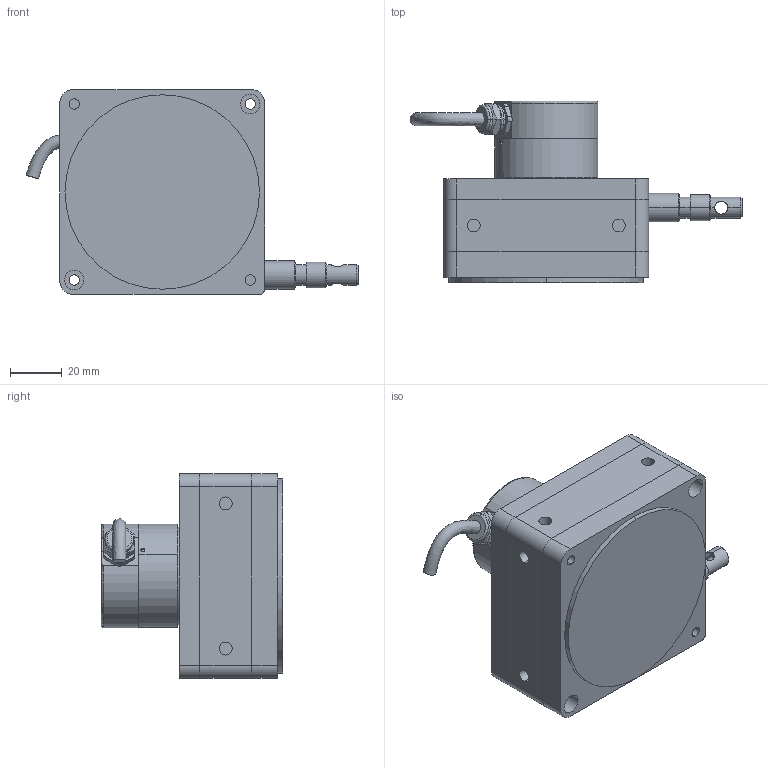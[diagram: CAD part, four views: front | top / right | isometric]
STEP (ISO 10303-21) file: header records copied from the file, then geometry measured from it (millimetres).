
FILE_DESCRIPTION(/* description */ (''),/* implementation_level */ '2;1');
FILE_NAME(/* name */ '03 IP68 BRT38 3m-拉线盒.stp',/* time_stamp */ '2023-06-16T18:28:42+08:00',/* author */ (''),/* organization */ (''),/* preprocessor_version */ 'ST-DEVELOPER v16.7',/* originating_system */ 'SIEMENS PLM Software NX 12.0',/* authorisation */ '');
FILE_SCHEMA (('AP203_CONFIGURATION_CONTROLLED_3D_DESIGN_OF_MECHANICAL_PARTS_AND_ASSEMBLIES_MIM_LF { 1 0 10303 403 2 1 2}'));
Length unit declared in the file: millimetre
Products named in the file (1): 290151E8A75Fbqrh
Bounding box: 128.04 x 70 x 79 mm (x, y, z)
Volume: 261028.9 mm3; surface area: 74620.9 mm2
Topology: 14 solids, 14 shells, 390 faces, 1106 edges, 707 vertices
Faces by surface type: cylinder 188, plane 102, torus 53, sphere 26, cone 20, bspline 1
Full cylindrical faces by diameter (mm): 9 x1, 12 x1, 14 x1, 38 x1
Entity records: 14226 total; most frequent: CARTESIAN_POINT 4116, DIRECTION 2118, ORIENTED_EDGE 2100, EDGE_CURVE 1050, AXIS2_PLACEMENT_3D 919, VERTEX_POINT 707, CIRCLE 529, EDGE_LOOP 489
